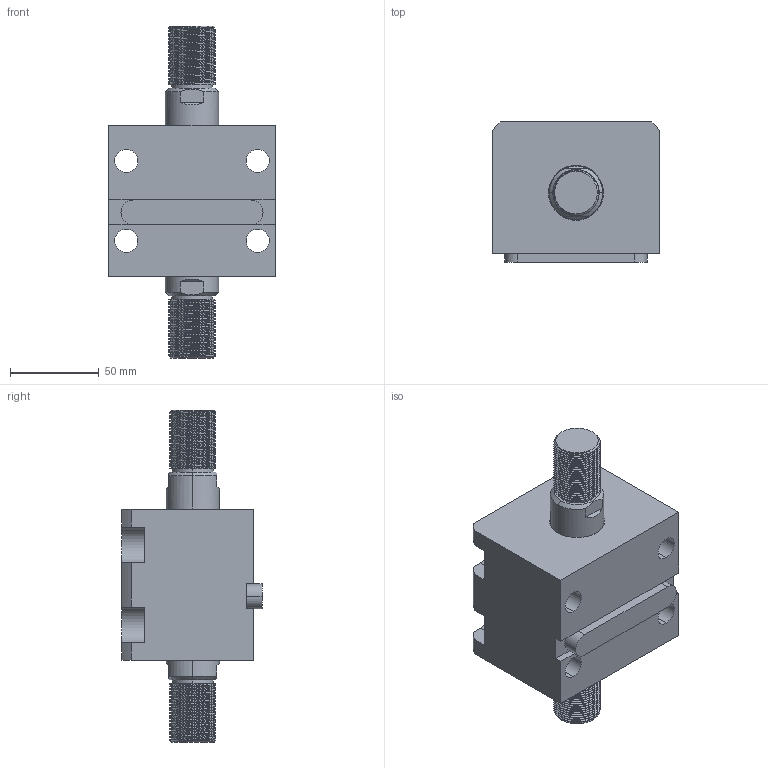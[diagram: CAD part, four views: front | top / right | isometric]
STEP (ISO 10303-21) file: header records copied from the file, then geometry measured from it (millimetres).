
FILE_DESCRIPTION (( 'STEP AP203' ), '1' );
FILE_NAME ('CHTB-LW50-10W.STEP', '2018-05-18T02:21:18', ( '' ), ( '' ), 'SwSTEP 2.0', 'SolidWorks 2015', '' );
FILE_SCHEMA (( 'CONFIG_CONTROL_DESIGN' ));
Length unit declared in the file: millimetre
Products named in the file (4): 活塞杆LW50-10W; 掛极LW50-10W; CHTM-SDMA50QG; CHTB-LW50-10W
Assembly tree (3 placements, depth 2):
  CHTB-LW50-10W
    掛极LW50-10W
    活塞杆LW50-10W
    CHTM-SDMA50QG
Bounding box: 94 x 79 x 187 mm (x, y, z)
Volume: 581455.9 mm3; surface area: 106823.9 mm2
Topology: 3 solids, 3 shells, 313 faces, 860 edges, 571 vertices
Faces by surface type: cylinder 187, plane 64, cone 28, bspline 18, torus 16
Entity records: 19558 total; most frequent: CARTESIAN_POINT 11928, ORIENTED_EDGE 1712, DIRECTION 1323, EDGE_CURVE 856, VERTEX_POINT 571, AXIS2_PLACEMENT_3D 507, EDGE_LOOP 351, ADVANCED_FACE 313
